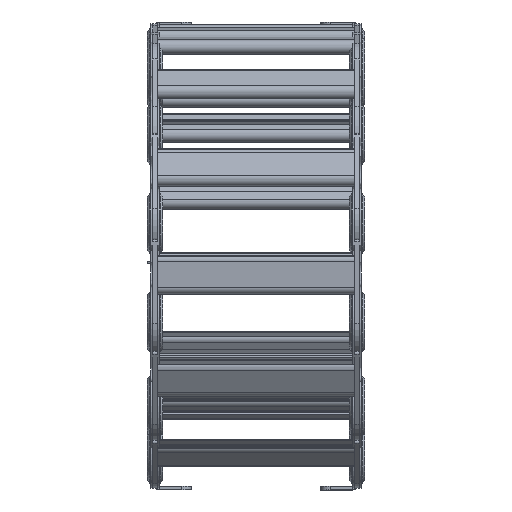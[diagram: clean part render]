
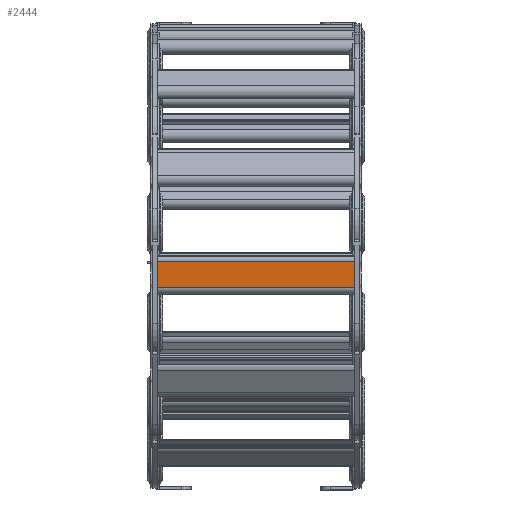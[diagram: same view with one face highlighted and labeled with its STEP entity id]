
A CAD part, front view. The second image highlights one B-rep face of the part: STEP entity #2444.
In plain terms, the highlighted planar face has unit normal (0, -0.999, -0.055) as drawn and (0, 1, 0) by its records, which use the part's own axes.
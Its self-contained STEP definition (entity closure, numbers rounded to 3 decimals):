
#2405=CARTESIAN_POINT('',(93.078,194.987,0.0));
#2406=DIRECTION('',(0.0,1.0,0.0));
#2407=DIRECTION('',(0.0,0.0,1.0));
#2408=AXIS2_PLACEMENT_3D('',#2405,#2406,#2407);
#2409=PLANE('',#2408);
#2410=CARTESIAN_POINT('',(86.553,194.987,100.0));
#2411=VERTEX_POINT('',#2410);
#2412=CARTESIAN_POINT('',(99.603,194.987,100.0));
#2413=VERTEX_POINT('',#2412);
#2414=CARTESIAN_POINT('',(86.553,194.987,100.0));
#2415=DIRECTION('',(1.0,0.0,0.0));
#2416=VECTOR('',#2415,13.05);
#2417=LINE('',#2414,#2416);
#2418=EDGE_CURVE('',#2411,#2413,#2417,.T.);
#2419=ORIENTED_EDGE('',*,*,#2418,.T.);
#2420=CARTESIAN_POINT('',(99.603,194.987,0.0));
#2421=VERTEX_POINT('',#2420);
#2422=CARTESIAN_POINT('',(99.603,194.987,0.0));
#2423=DIRECTION('',(0.0,0.0,1.0));
#2424=VECTOR('',#2423,100.0);
#2425=LINE('',#2422,#2424);
#2426=EDGE_CURVE('',#2421,#2413,#2425,.T.);
#2427=ORIENTED_EDGE('',*,*,#2426,.F.);
#2428=CARTESIAN_POINT('',(86.553,194.987,0.0));
#2429=VERTEX_POINT('',#2428);
#2430=CARTESIAN_POINT('',(86.553,194.987,0.0));
#2431=DIRECTION('',(1.0,0.0,0.0));
#2432=VECTOR('',#2431,13.05);
#2433=LINE('',#2430,#2432);
#2434=EDGE_CURVE('',#2429,#2421,#2433,.T.);
#2435=ORIENTED_EDGE('',*,*,#2434,.F.);
#2436=CARTESIAN_POINT('',(86.553,194.987,0.0));
#2437=DIRECTION('',(0.0,0.0,1.0));
#2438=VECTOR('',#2437,100.0);
#2439=LINE('',#2436,#2438);
#2440=EDGE_CURVE('',#2429,#2411,#2439,.T.);
#2441=ORIENTED_EDGE('',*,*,#2440,.T.);
#2442=EDGE_LOOP('',(#2419,#2427,#2435,#2441));
#2443=FACE_OUTER_BOUND('',#2442,.T.);
#2444=ADVANCED_FACE('',(#2443),#2409,.T.);
